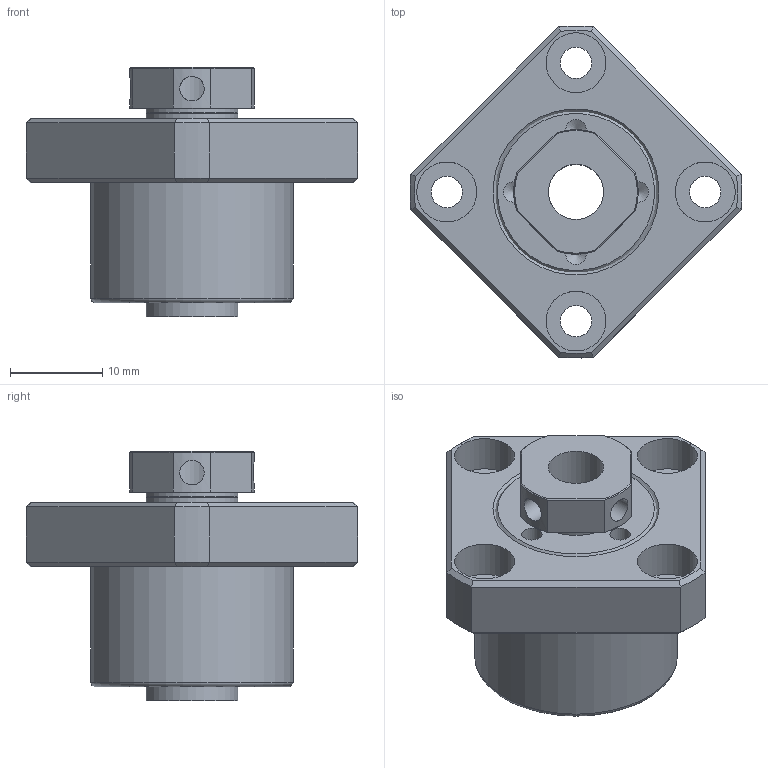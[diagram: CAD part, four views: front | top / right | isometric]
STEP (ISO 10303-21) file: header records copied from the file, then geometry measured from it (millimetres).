
FILE_DESCRIPTION(/* description */ (''),/* implementation_level */ '2;1');
FILE_NAME(/* name */ 'FK6.stp',/* time_stamp */ '2019-12-25T13:54:13+08:00',/* author */ (''),/* organization */ (''),/* preprocessor_version */ 'ST-DEVELOPER v14',/* originating_system */ 'SIEMENS PLM Software NX 8.0',/* authorisation */ '');
FILE_SCHEMA (('AUTOMOTIVE_DESIGN { 1 0 10303 214 3 1 1 1 }'));
Length unit declared in the file: millimetre
Products named in the file (6): M6; GT-10-6-5; 706; FK6-LID; FK6-A; FK6
Assembly tree (7 placements, depth 2):
  FK6
    FK6-A
    FK6-LID
    706  x2
    GT-10-6-5  x2
    M6
Bounding box: 35.98 x 35.98 x 27 mm (x, y, z)
Volume: 9343 mm3; surface area: 8352.5 mm2
Topology: 7 solids, 7 shells, 113 faces, 247 edges, 155 vertices
Faces by surface type: plane 47, cylinder 38, cone 24, torus 2, bspline 2
Full cylindrical faces by diameter (mm): 2.2 x4, 2.65 x2, 3.4 x4, 6 x5, 6.5 x4, 10 x4, 14 x1, 17 x3, 22 x1
Entity records: 4578 total; most frequent: CARTESIAN_POINT 2297, DIRECTION 446, ORIENTED_EDGE 372, AXIS2_PLACEMENT_3D 196, EDGE_CURVE 186, EDGE_LOOP 167, VERTEX_POINT 135, FACE_BOUND 118
